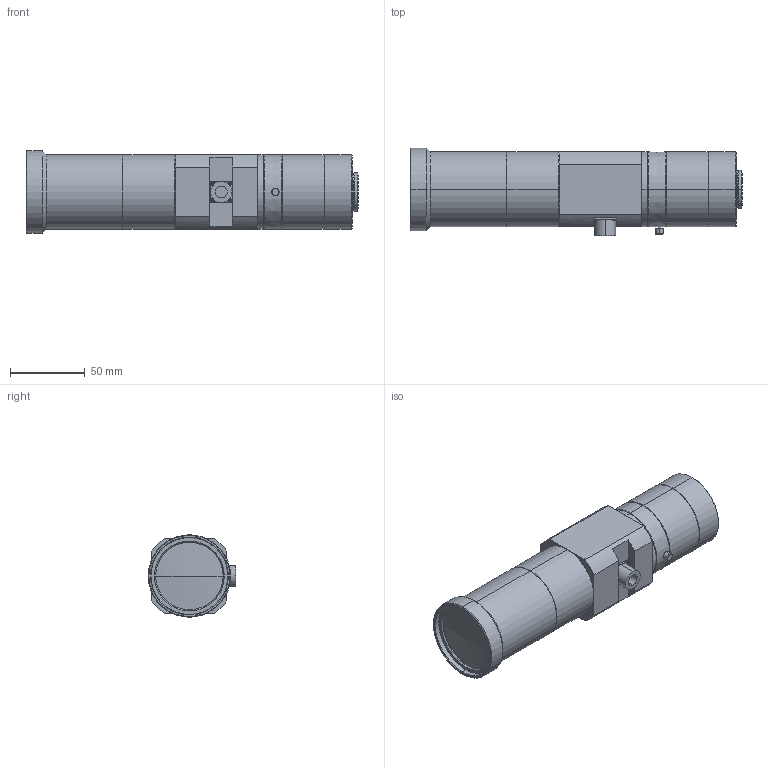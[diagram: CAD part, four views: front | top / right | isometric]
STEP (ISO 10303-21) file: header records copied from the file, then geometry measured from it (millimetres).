
FILE_DESCRIPTION (( 'STEP AP203' ), '1' );
FILE_NAME ('VS-TCTV08-110CO_S_ŠOŠÏModel.STEP', '2025-07-14T02:25:16', ( '' ), ( '' ), 'SwSTEP 2.0', 'SolidWorks 2024', '' );
FILE_SCHEMA (( 'CONFIG_CONTROL_DESIGN' ));
Length unit declared in the file: millimetre
Products named in the file (1): VS-TCTV08-110CO_S_外観Model
Bounding box: 221.47 x 58.5 x 55 mm (x, y, z)
Volume: 423397.8 mm3; surface area: 50283.8 mm2
Topology: 1 solids, 1 shells, 210 faces, 480 edges, 298 vertices
Faces by surface type: plane 92, cone 54, cylinder 52, torus 8, sphere 4
Entity records: 5963 total; most frequent: DIRECTION 1080, CARTESIAN_POINT 1005, ORIENTED_EDGE 960, EDGE_CURVE 480, AXIS2_PLACEMENT_3D 393, VERTEX_POINT 298, LINE 294, VECTOR 294
